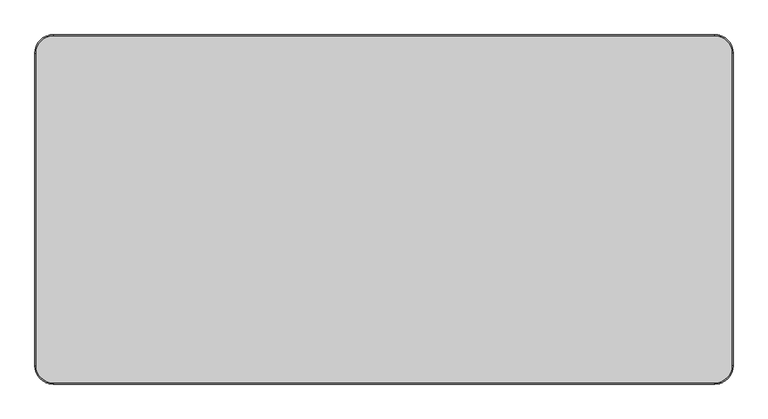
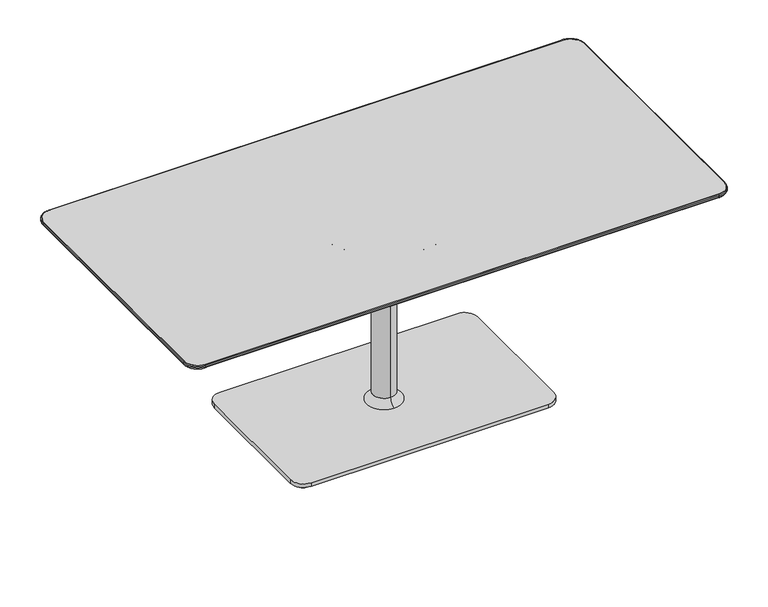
"""IFC4 building model written with IfcOpenShell, lengths in millimetres: furniture geometry, Coalesse_AM_Table_Occasional_Lagunitas_Work : 28.5H x 36D x 72W."""

from ifc_helpers import new_model, si_unit, point, frame, frame_2d, origin, origin_with_axes, place, context, project, spatial, polyline, circle_curve, ellipse_curve, trimmed, segment, composite_curve, outline, extrude, source, transform, mapped, element, save
from ifc_brep_helpers import plane_surface, cylinder_surface, revolved_surface, spline_surface, advanced_brep


def furniture_a1049126(model_context):
    return source(origin(), model_context, "Body", "SolidModel", [
        advanced_brep(
        [(911.6570059, 409.7063839, 711.8724172), (867.2070059, 454.1563839, 711.8724172), (-866.5969941, 454.1563839, 711.8724172), (-911.0469941, 409.7063839, 711.8724172), (-911.0469941, -409.7063839, 711.8724172), (-866.5969941, -454.1563839, 711.8724172), (867.2070059, -454.1563839, 711.8724172), (911.6570059, -409.7063839, 711.8724172), (843.8389826, 386.3390054, 693.8099277), (843.8389826, -386.3390054, 693.8099277), (-843.2289709, -386.3390054, 693.8099277), (-843.2289709, 386.3390054, 693.8099277)],
        [
            (0, 1, circle_curve(frame((867.2070059, 409.7063839, 711.8724172), z_axis=(0.0, 0.0, 1.0), x_axis=(1.0, 0.0, 0.0)), 44.45)),
            (1, 2),
            (2, 3, circle_curve(frame((-866.5969941, 409.7063839, 711.8724172), z_axis=(0.0, 0.0, 1.0), x_axis=(1.0, 0.0, 0.0)), 44.45)),
            (3, 4),
            (4, 5, circle_curve(frame((-866.5969941, -409.7063839, 711.8724172), z_axis=(0.0, 0.0, 1.0), x_axis=(1.0, 0.0, 0.0)), 44.45)),
            (5, 6),
            (6, 7, circle_curve(frame((867.2070059, -409.7063839, 711.8724172), z_axis=(0.0, 0.0, 1.0), x_axis=(1.0, 0.0, 0.0)), 44.45)),
            (7, 0),
            (8, 9),
            (9, 10),
            (10, 11),
            (11, 8),
            (0, 8),
            (8, 1),
            (11, 2),
            (11, 3),
            (10, 4),
            (10, 5),
            (9, 6),
            (9, 7),
        ],
        [
            plane_surface(frame((0.3050059, 0.0, 711.8724172), z_axis=(0.0, 0.0, 1.0), x_axis=(-1.0, 0.0, 0.0))),
            plane_surface(frame((0.3050059, 0.0, 693.8099277), z_axis=(0.0, 0.0, -1.0), x_axis=(-1.0, 0.0, 0.0))),
            spline_surface(2, 1, [[(843.8389826, 386.3390054, 693.8099277), (911.6570059, 409.7063839, 711.8724172)], [(843.8389826, 386.3390054, 693.8099277), (911.6570058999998, 454.1563838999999, 711.8724172)], [(843.8389826, 386.3390054, 693.8099277), (867.2070059, 454.1563839, 711.8724172)]], [3, 3], [2, 2], [0.0, 1.0], [0.0, 1.0], weights=[[1.0, 1.0], [0.707106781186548, 0.707106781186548], [1.0, 1.0]]),
            plane_surface(frame((0.3050059, 386.3390054, 693.8099277), z_axis=(0.0, 0.2573680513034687, -0.966313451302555), x_axis=(-1.0, 0.0, 0.0))),
            spline_surface(2, 1, [[(-843.2289709, 386.3390054, 693.8099277), (-866.5969941, 454.1563839, 711.8724172)], [(-843.2289709, 386.3390054, 693.8099277), (-911.0469940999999, 454.1563838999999, 711.8724172)], [(-843.2289709, 386.3390054, 693.8099277), (-911.0469941, 409.7063839, 711.8724172)]], [3, 3], [2, 2], [0.0, 1.0], [0.0, 1.0], weights=[[1.0, 1.0], [0.707106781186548, 0.707106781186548], [1.0, 1.0]]),
            plane_surface(frame((-843.2289709, 0.0, 693.8099277), z_axis=(-0.25736576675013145, 0.0, -0.9663140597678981), x_axis=(0.0, -1.0, 0.0))),
            spline_surface(2, 1, [[(-843.2289709, -386.3390054, 693.8099277), (-911.0469941, -409.7063839, 711.8724172)], [(-843.2289709, -386.3390054, 693.8099277), (-911.0469941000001, -454.15638390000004, 711.8724172)], [(-843.2289709, -386.3390054, 693.8099277), (-866.5969941, -454.1563839, 711.8724172)]], [3, 3], [2, 2], [0.0, 1.0], [0.0, 1.0], weights=[[1.0, 1.0], [0.7071067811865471, 0.7071067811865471], [1.0, 1.0]]),
            plane_surface(frame((0.3050059, -386.3390054, 693.8099277), z_axis=(0.0, -0.25736805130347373, -0.9663134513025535), x_axis=(1.0, 0.0, 0.0))),
            spline_surface(2, 1, [[(843.8389826, -386.3390054, 693.8099277), (867.2070059, -454.1563839, 711.8724172)], [(843.8389826, -386.3390054, 693.8099277), (911.6570059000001, -454.15638390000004, 711.8724172)], [(843.8389826, -386.3390054, 693.8099277), (911.6570059, -409.7063839, 711.8724172)]], [3, 3], [2, 2], [0.0, 1.0], [0.0, 1.0], weights=[[1.0, 1.0], [0.707106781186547, 0.707106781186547], [1.0, 1.0]]),
            plane_surface(frame((843.8389826, 0.0, 693.8099277), z_axis=(0.2573657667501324, 0.0, -0.9663140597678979), x_axis=(0.0, 1.0, 0.0))),
        ],
        [
            (0, [[1, 2, 3, 4, 5, 6, 7, 8]]),
            (1, [[9, 10, 11, 12]]),
            (2, [[-1, 13, 14]]),
            (3, [[-12, 15, -2, -14]]),
            (4, [[-3, -15, 16]]),
            (5, [[-11, 17, -4, -16]]),
            (6, [[-5, -17, 18]]),
            (7, [[-10, 19, -6, -18]]),
            (8, [[-7, -19, 20]]),
            (9, [[-9, -13, -8, -20]]),
        ],
    ),
        extrude(outline(composite_curve([segment(trimmed(circle_curve(frame_2d((867.2070059, 409.7063839)), 44.45), [point((867.2070059, 454.1563839))], [point((911.6570059, 409.7063839))], False, "CARTESIAN"), True, "CONTINUOUS"), segment(polyline([(911.6570059, 409.7063839), (911.6570059, -409.7063839)]), True, "CONTINUOUS"), segment(trimmed(circle_curve(frame_2d((867.2070059, -409.7063839)), 44.45), [point((911.6570059, -409.7063839))], [point((867.2070059, -454.1563839))], False, "CARTESIAN"), True, "CONTINUOUS"), segment(polyline([(867.2070059, -454.1563839), (-866.5969941, -454.1563839)]), True, "CONTINUOUS"), segment(trimmed(circle_curve(frame_2d((-866.5969941, -409.7063839)), 44.45), [point((-866.5969941, -454.1563839))], [point((-911.0469941, -409.7063839))], False, "CARTESIAN"), True, "CONTINUOUS"), segment(polyline([(-911.0469941, -409.7063839), (-911.0469941, 409.7063839)]), True, "CONTINUOUS"), segment(trimmed(circle_curve(frame_2d((-866.5969941, 409.7063839)), 44.45), [point((-911.0469941, 409.7063839))], [point((-866.5969941, 454.1563839))], False, "CARTESIAN"), True, "CONTINUOUS"), segment(polyline([(-866.5969941, 454.1563839), (867.2070059, 454.1563839)]), True, "CONTINUOUS")], self_intersect=False)), frame((0.0, 0.0, 711.8724172), z_axis=(0.0, 0.0, 1.0), x_axis=(1.0, 0.0, 0.0)), (0.0, 0.0, 1.0), 12.0275828),
        extrude(outline(composite_curve([segment(trimmed(circle_curve(frame_2d((-404.2943146, 226.8029495)), 25.4), [point((-429.6943146, 226.8029495))], [point((-378.8943146, 226.8029495))], False, "CARTESIAN"), True, "CONTINUOUS"), segment(trimmed(circle_curve(frame_2d((-404.2943146, 226.8029495)), 25.4), [point((-378.8943146, 226.8029495))], [point((-429.6943146, 226.8029495))], False, "CARTESIAN"), True, "CONTINUOUS")], self_intersect=False)), origin_with_axes(), (0.0, 0.0, 1.0), 10.6571495),
        extrude(outline(composite_curve([segment(trimmed(circle_curve(frame_2d((404.9043263, 226.8029495)), 25.4), [point((379.5043263, 226.8029495))], [point((430.3043263, 226.8029495))], False, "CARTESIAN"), True, "CONTINUOUS"), segment(trimmed(circle_curve(frame_2d((404.9043263, 226.8029495)), 25.4), [point((430.3043263, 226.8029495))], [point((379.5043263, 226.8029495))], False, "CARTESIAN"), True, "CONTINUOUS")], self_intersect=False)), origin_with_axes(), (0.0, 0.0, 1.0), 10.6571495),
        extrude(outline(composite_curve([segment(trimmed(circle_curve(frame_2d((404.9043263, -226.8029495)), 25.4), [point((379.5043263, -226.8029495))], [point((430.3043263, -226.8029495))], False, "CARTESIAN"), True, "CONTINUOUS"), segment(trimmed(circle_curve(frame_2d((404.9043263, -226.8029495)), 25.4), [point((430.3043263, -226.8029495))], [point((379.5043263, -226.8029495))], False, "CARTESIAN"), True, "CONTINUOUS")], self_intersect=False)), origin_with_axes(), (0.0, 0.0, 1.0), 10.6571495),
        extrude(outline(composite_curve([segment(trimmed(circle_curve(frame_2d((-404.2943146, -226.8029495)), 25.4), [point((-429.6943146, -226.8029495))], [point((-378.8943146, -226.8029495))], False, "CARTESIAN"), True, "CONTINUOUS"), segment(trimmed(circle_curve(frame_2d((-404.2943146, -226.8029495)), 25.4), [point((-378.8943146, -226.8029495))], [point((-429.6943146, -226.8029495))], False, "CARTESIAN"), True, "CONTINUOUS")], self_intersect=False)), origin_with_axes(), (0.0, 0.0, 1.0), 10.6571495),
        extrude(outline(composite_curve([segment(trimmed(circle_curve(frame_2d((400.3550059, 222.2481833)), 44.45), [point((400.3550059, 266.6981833))], [point((444.8050059, 222.2481833))], False, "CARTESIAN"), True, "CONTINUOUS"), segment(polyline([(444.8050059, 222.2481833), (444.8050059, -222.2481833)]), True, "CONTINUOUS"), segment(trimmed(circle_curve(frame_2d((400.3550059, -222.2481833)), 44.45), [point((444.8050059, -222.2481833))], [point((400.3550059, -266.6981833))], False, "CARTESIAN"), True, "CONTINUOUS"), segment(polyline([(400.3550059, -266.6981833), (-399.7449941, -266.6981833)]), True, "CONTINUOUS"), segment(trimmed(circle_curve(frame_2d((-399.7449941, -222.2481833)), 44.45), [point((-399.7449941, -266.6981833))], [point((-444.1949941, -222.2481833))], False, "CARTESIAN"), True, "CONTINUOUS"), segment(polyline([(-444.1949941, -222.2481833), (-444.1949941, 222.2481833)]), True, "CONTINUOUS"), segment(trimmed(circle_curve(frame_2d((-399.7449941, 222.2481833)), 44.45), [point((-444.1949941, 222.2481833))], [point((-399.7449941, 266.6981833))], False, "CARTESIAN"), True, "CONTINUOUS"), segment(polyline([(-399.7449941, 266.6981833), (400.3550059, 266.6981833)]), True, "CONTINUOUS")], self_intersect=False)), frame((0.0, 0.0, 10.6571495), z_axis=(0.0, 0.0, 1.0), x_axis=(1.0, 0.0, 0.0)), (0.0, 0.0, 1.0), 12.7000004),
        advanced_brep(
        [(-914.0930954, 409.7063839, 715.6656816), (-866.5969941, 457.2024852, 715.6656816), (-866.5969941, 454.1563839, 711.8724172), (-911.0469941, 409.7063839, 711.8724172), (-914.0930954, 409.7063839, 720.8538988), (-866.5969941, 457.2024852, 720.8538988), (-911.0469941, 409.7063839, 723.9), (-866.5969941, 454.1563839, 723.9), (-911.0469941, -409.7063839, 711.8724172), (-914.0930954, -409.7063839, 715.6656816), (-914.0930954, -409.7063839, 720.8538988), (-911.0469941, -409.7063839, 723.9), (-866.5969941, -457.2024852, 715.6656816), (-866.5969941, -454.1563839, 711.8724172), (-866.5969941, -457.2024852, 720.8538988), (-866.5969941, -454.1563839, 723.9), (867.2070059, -454.1563839, 711.8724172), (867.2070059, -457.2024852, 715.6656816), (867.2070059, -457.2024852, 720.8538988), (867.2070059, -454.1563839, 723.9), (914.7031071, -409.7063839, 715.6656816), (911.6570059, -409.7063839, 711.8724172), (914.7031071, -409.7063839, 720.8538988), (911.6570059, -409.7063839, 723.9), (911.6570059, 409.7063839, 711.8724172), (914.7031071, 409.7063839, 715.6656816), (914.7031071, 409.7063839, 720.8538988), (911.6570059, 409.7063839, 723.9), (867.2070059, 457.2024852, 715.6656816), (867.2070059, 454.1563839, 711.8724172), (867.2070059, 457.2024852, 720.8538988), (867.2070059, 454.1563839, 723.9)],
        [
            (0, 1, circle_curve(frame((-866.5969941, 409.7063839, 715.6656816), z_axis=(0.0, 0.0, -1.0), x_axis=(0.0, 1.0, 0.0)), 47.4961012)),
            (1, 2, circle_curve(frame((-866.5969941, 453.3175869, 715.6656816), z_axis=(-1.0, 0.0, 0.0), x_axis=(0.0, -1.0, 0.0)), 3.8848983)),
            (2, 3, circle_curve(frame((-866.5969941, 409.7063839, 711.8724172), z_axis=(0.0, 0.0, 1.0), x_axis=(0.0, 1.0, 0.0)), 44.45)),
            (3, 0, circle_curve(frame((-910.2081971, 409.7063839, 715.6656816), z_axis=(0.0, 1.0, 0.0), x_axis=(1.0, 0.0, 0.0)), 3.8848983)),
            (4, 5, circle_curve(frame((-866.5969941, 409.7063839, 720.8538988), z_axis=(0.0, 0.0, -1.0), x_axis=(0.0, 1.0, 0.0)), 47.4961012)),
            (5, 1),
            (0, 4),
            (6, 7, circle_curve(frame((-866.5969941, 409.7063839, 723.9), z_axis=(0.0, 0.0, -1.0), x_axis=(0.0, 1.0, 0.0)), 44.45)),
            (7, 5, circle_curve(frame((-866.5969941, 454.1563839, 720.8538988), z_axis=(-1.0, 0.0, 0.0), x_axis=(0.0, -1.0, 0.0)), 3.0461012)),
            (4, 6, circle_curve(frame((-911.0469941, 409.7063839, 720.8538988), z_axis=(0.0, 1.0, 0.0), x_axis=(1.0, 0.0, 0.0)), 3.0461012)),
            (2, 7),
            (6, 3),
            (3, 8),
            (8, 9, circle_curve(frame((-910.2081971, -409.7063839, 715.6656816), z_axis=(0.0, 1.0, 0.0), x_axis=(1.0, 0.0, 0.0)), 3.8848983)),
            (9, 0),
            (9, 10),
            (10, 4),
            (10, 11, circle_curve(frame((-911.0469941, -409.7063839, 720.8538988), z_axis=(0.0, 1.0, 0.0), x_axis=(1.0, 0.0, 0.0)), 3.0461012)),
            (11, 6),
            (11, 8),
            (12, 9, circle_curve(frame((-866.5969941, -409.7063839, 715.6656816), z_axis=(0.0, 0.0, -1.0), x_axis=(-1.0, 0.0, 0.0)), 47.4961012)),
            (8, 13, circle_curve(frame((-866.5969941, -409.7063839, 711.8724172), z_axis=(0.0, 0.0, 1.0), x_axis=(-1.0, 0.0, 0.0)), 44.45)),
            (13, 12, circle_curve(frame((-866.5969941, -453.3175869, 715.6656816), z_axis=(-1.0, 0.0, 0.0), x_axis=(0.0, 1.0, 0.0)), 3.8848983)),
            (14, 10, circle_curve(frame((-866.5969941, -409.7063839, 720.8538988), z_axis=(0.0, 0.0, -1.0), x_axis=(-1.0, 0.0, 0.0)), 47.4961012)),
            (12, 14),
            (15, 11, circle_curve(frame((-866.5969941, -409.7063839, 723.9), z_axis=(0.0, 0.0, -1.0), x_axis=(-1.0, 0.0, 0.0)), 44.45)),
            (14, 15, circle_curve(frame((-866.5969941, -454.1563839, 720.8538988), z_axis=(-1.0, 0.0, 0.0), x_axis=(0.0, 1.0, 0.0)), 3.0461012)),
            (15, 13),
            (13, 16),
            (16, 17, circle_curve(frame((867.2070059, -453.3175869, 715.6656816), z_axis=(-1.0, 0.0, 0.0), x_axis=(0.0, 1.0, 0.0)), 3.8848983)),
            (17, 12),
            (17, 18),
            (18, 14),
            (18, 19, circle_curve(frame((867.2070059, -454.1563839, 720.8538988), z_axis=(-1.0, 0.0, 0.0), x_axis=(0.0, 1.0, 0.0)), 3.0461012)),
            (19, 15),
            (19, 16),
            (20, 17, circle_curve(frame((867.2070059, -409.7063839, 715.6656816), z_axis=(0.0, 0.0, -1.0), x_axis=(0.0, -1.0, 0.0)), 47.4961012)),
            (16, 21, circle_curve(frame((867.2070059, -409.7063839, 711.8724172), z_axis=(0.0, 0.0, 1.0), x_axis=(0.0, -1.0, 0.0)), 44.45)),
            (21, 20, circle_curve(frame((910.8182088, -409.7063839, 715.6656816), z_axis=(0.0, -1.0, 0.0), x_axis=(-1.0, 0.0, 0.0)), 3.8848983)),
            (22, 18, circle_curve(frame((867.2070059, -409.7063839, 720.8538988), z_axis=(0.0, 0.0, -1.0), x_axis=(0.0, -1.0, 0.0)), 47.4961012)),
            (20, 22),
            (23, 19, circle_curve(frame((867.2070059, -409.7063839, 723.9), z_axis=(0.0, 0.0, -1.0), x_axis=(0.0, -1.0, 0.0)), 44.45)),
            (22, 23, circle_curve(frame((911.6570059, -409.7063839, 720.8538988), z_axis=(0.0, -1.0, 0.0), x_axis=(-1.0, 0.0, 0.0)), 3.0461012)),
            (23, 21),
            (21, 24),
            (24, 25, circle_curve(frame((910.8182088, 409.7063839, 715.6656816), z_axis=(0.0, -1.0, 0.0), x_axis=(-1.0, 0.0, 0.0)), 3.8848983)),
            (25, 20),
            (25, 26),
            (26, 22),
            (26, 27, circle_curve(frame((911.6570059, 409.7063839, 720.8538988), z_axis=(0.0, -1.0, 0.0), x_axis=(-1.0, 0.0, 0.0)), 3.0461012)),
            (27, 23),
            (27, 24),
            (28, 25, circle_curve(frame((867.2070059, 409.7063839, 715.6656816), z_axis=(0.0, 0.0, -1.0), x_axis=(1.0, 0.0, 0.0)), 47.4961012)),
            (24, 29, circle_curve(frame((867.2070059, 409.7063839, 711.8724172), z_axis=(0.0, 0.0, 1.0), x_axis=(1.0, 0.0, 0.0)), 44.45)),
            (29, 28, circle_curve(frame((867.2070059, 453.3175869, 715.6656816), z_axis=(1.0, 0.0, 0.0), x_axis=(0.0, -1.0, 0.0)), 3.8848983)),
            (30, 26, circle_curve(frame((867.2070059, 409.7063839, 720.8538988), z_axis=(0.0, 0.0, -1.0), x_axis=(1.0, 0.0, 0.0)), 47.4961012)),
            (28, 30),
            (31, 27, circle_curve(frame((867.2070059, 409.7063839, 723.9), z_axis=(0.0, 0.0, -1.0), x_axis=(1.0, 0.0, 0.0)), 44.45)),
            (30, 31, circle_curve(frame((867.2070059, 454.1563839, 720.8538988), z_axis=(1.0, 0.0, 0.0), x_axis=(0.0, -1.0, 0.0)), 3.0461012)),
            (31, 29),
            (29, 2),
            (1, 28),
            (5, 30),
            (7, 31),
        ],
        [
            revolved_surface(trimmed(ellipse_curve(frame((-866.5969941, 453.3175869, 715.6656816), z_axis=(1.0, 0.0, 0.0), x_axis=(0.0, -1.0, 0.0)), 3.8848983, 3.8848983), [point((-866.5969941, 454.1563839, 711.8724172))], [point((-866.5969941, 457.2024852, 715.6656816))], True, "CARTESIAN"), (-866.5969941, 409.7063839, 0.0), (0.0, 0.0, 1.0)),
            cylinder_surface(frame((-866.5969941, 409.7063839, 0.0), z_axis=(0.0, 0.0, 1.0), x_axis=(0.0, 1.0, 0.0)), 47.4961012),
            revolved_surface(trimmed(ellipse_curve(frame((-866.5969941, 454.1563839, 720.8538988), z_axis=(1.0, 0.0, 0.0), x_axis=(0.0, -1.0, 0.0)), 3.0461012, 3.0461012), [point((-866.5969941, 457.2024852, 720.8538988))], [point((-866.5969941, 454.1563839, 723.9))], True, "CARTESIAN"), (-866.5969941, 409.7063839, 0.0), (0.0, 0.0, 1.0)),
            revolved_surface(polyline([(-866.5969941, 454.1563839, 723.9), (-866.5969941, 454.1563839, 711.8724172)]), (-866.5969941, 409.7063839, 0.0), (0.0, 0.0, 1.0)),
            cylinder_surface(frame((-910.2081971, 409.7063839, 715.6656816), z_axis=(0.0, 1.0, 0.0), x_axis=(1.0, 0.0, 0.0)), 3.8848983),
            plane_surface(frame((-914.0930954, 409.7063839, 715.6656816), z_axis=(-1.0, 0.0, 0.0), x_axis=(0.0, -1.0, 0.0))),
            cylinder_surface(frame((-911.0469941, 409.7063839, 720.8538988), z_axis=(0.0, 1.0, 0.0), x_axis=(1.0, 0.0, 0.0)), 3.0461012),
            plane_surface(frame((-911.0469941, 409.7063839, 723.9), z_axis=(1.0, 0.0, 0.0), x_axis=(0.0, -1.0, 0.0))),
            revolved_surface(trimmed(ellipse_curve(frame((-910.2081971, -409.7063839, 715.6656816), z_axis=(0.0, 1.0, 0.0), x_axis=(1.0, 0.0, 0.0)), 3.8848983, 3.8848983), [point((-911.0469941, -409.7063839, 711.8724172))], [point((-914.0930954, -409.7063839, 715.6656816))], True, "CARTESIAN"), (-866.5969941, -409.7063839, 0.0), (0.0, 0.0, 1.0)),
            cylinder_surface(frame((-866.5969941, -409.7063839, 0.0), z_axis=(0.0, 0.0, 1.0), x_axis=(-1.0, 0.0, 0.0)), 47.4961012),
            revolved_surface(trimmed(ellipse_curve(frame((-911.0469941, -409.7063839, 720.8538988), z_axis=(0.0, 1.0, 0.0), x_axis=(1.0, 0.0, 0.0)), 3.0461012, 3.0461012), [point((-914.0930954, -409.7063839, 720.8538988))], [point((-911.0469941, -409.7063839, 723.9))], True, "CARTESIAN"), (-866.5969941, -409.7063839, 0.0), (0.0, 0.0, 1.0)),
            revolved_surface(polyline([(-911.0469941, -409.7063839, 723.9), (-911.0469941, -409.7063839, 711.8724172)]), (-866.5969941, -409.7063839, 0.0), (0.0, 0.0, 1.0)),
            cylinder_surface(frame((-866.5969941, -453.3175869, 715.6656816), z_axis=(-1.0, 0.0, 0.0), x_axis=(0.0, 1.0, 0.0)), 3.8848983),
            plane_surface(frame((-866.5969941, -457.2024852, 715.6656816), z_axis=(0.0, -1.0, 0.0), x_axis=(1.0, 0.0, 0.0))),
            cylinder_surface(frame((-866.5969941, -454.1563839, 720.8538988), z_axis=(-1.0, 0.0, 0.0), x_axis=(0.0, 1.0, 0.0)), 3.0461012),
            plane_surface(frame((-866.5969941, -454.1563839, 723.9), z_axis=(0.0, 1.0, 0.0), x_axis=(1.0, 0.0, 0.0))),
            revolved_surface(trimmed(ellipse_curve(frame((867.2070059, -453.3175869, 715.6656816), z_axis=(-1.0, 0.0, 0.0), x_axis=(0.0, 1.0, 0.0)), 3.8848983, 3.8848983), [point((867.2070059, -454.1563839, 711.8724172))], [point((867.2070059, -457.2024852, 715.6656816))], True, "CARTESIAN"), (867.2070059, -409.7063839, 0.0), (0.0, 0.0, 1.0)),
            cylinder_surface(frame((867.2070059, -409.7063839, 0.0), z_axis=(0.0, 0.0, 1.0), x_axis=(0.0, -1.0, 0.0)), 47.4961012),
            revolved_surface(trimmed(ellipse_curve(frame((867.2070059, -454.1563839, 720.8538988), z_axis=(-1.0, 0.0, 0.0), x_axis=(0.0, 1.0, 0.0)), 3.0461012, 3.0461012), [point((867.2070059, -457.2024852, 720.8538988))], [point((867.2070059, -454.1563839, 723.9))], True, "CARTESIAN"), (867.2070059, -409.7063839, 0.0), (0.0, 0.0, 1.0)),
            revolved_surface(polyline([(867.2070059, -454.1563839, 723.9), (867.2070059, -454.1563839, 711.8724172)]), (867.2070059, -409.7063839, 0.0), (0.0, 0.0, 1.0)),
            cylinder_surface(frame((910.8182088, -409.7063839, 715.6656816), z_axis=(0.0, -1.0, 0.0), x_axis=(-1.0, 0.0, 0.0)), 3.8848983),
            plane_surface(frame((914.7031071, -409.7063839, 715.6656816), z_axis=(1.0, 0.0, 0.0), x_axis=(0.0, 1.0, 0.0))),
            cylinder_surface(frame((911.6570059, -409.7063839, 720.8538988), z_axis=(0.0, -1.0, 0.0), x_axis=(-1.0, 0.0, 0.0)), 3.0461012),
            plane_surface(frame((911.6570059, -409.7063839, 723.9), z_axis=(-1.0, 0.0, 0.0), x_axis=(0.0, 1.0, 0.0))),
            revolved_surface(trimmed(ellipse_curve(frame((910.8182088, 409.7063839, 715.6656816), z_axis=(0.0, -1.0, 0.0), x_axis=(-1.0, 0.0, 0.0)), 3.8848983, 3.8848983), [point((911.6570059, 409.7063839, 711.8724172))], [point((914.7031071, 409.7063839, 715.6656816))], True, "CARTESIAN"), (867.2070059, 409.7063839, 0.0), (0.0, 0.0, 1.0)),
            cylinder_surface(frame((867.2070059, 409.7063839, 0.0), z_axis=(0.0, 0.0, 1.0), x_axis=(1.0, 0.0, 0.0)), 47.4961012),
            revolved_surface(trimmed(ellipse_curve(frame((911.6570059, 409.7063839, 720.8538988), z_axis=(0.0, -1.0, 0.0), x_axis=(-1.0, 0.0, 0.0)), 3.0461012, 3.0461012), [point((914.7031071, 409.7063839, 720.8538988))], [point((911.6570059, 409.7063839, 723.9))], True, "CARTESIAN"), (867.2070059, 409.7063839, 0.0), (0.0, 0.0, 1.0)),
            revolved_surface(polyline([(911.6570059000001, 409.7063839, 723.9), (911.6570059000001, 409.7063839, 711.8724172)]), (867.2070059, 409.7063839, 0.0), (0.0, 0.0, 1.0)),
            cylinder_surface(frame((867.2070059, 453.3175869, 715.6656816), z_axis=(1.0, 0.0, 0.0), x_axis=(0.0, -1.0, 0.0)), 3.8848983),
            plane_surface(frame((867.2070059, 457.2024852, 715.6656816), z_axis=(0.0, 1.0, 0.0), x_axis=(-1.0, 0.0, 0.0))),
            cylinder_surface(frame((867.2070059, 454.1563839, 720.8538988), z_axis=(1.0, 0.0, 0.0), x_axis=(0.0, -1.0, 0.0)), 3.0461012),
            plane_surface(frame((867.2070059, 454.1563839, 723.9), z_axis=(0.0, -1.0, 0.0), x_axis=(-1.0, 0.0, 0.0))),
        ],
        [
            (0, [[1, 2, 3, 4]]),
            (1, [[5, 6, -1, 7]]),
            (2, [[8, 9, -5, 10]]),
            (3, [[-3, 11, -8, 12]]),
            (4, [[-4, 13, 14, 15]]),
            (5, [[-7, -15, 16, 17]]),
            (6, [[-10, -17, 18, 19]]),
            (7, [[-12, -19, 20, -13]]),
            (8, [[21, -14, 22, 23]]),
            (9, [[24, -16, -21, 25]]),
            (10, [[26, -18, -24, 27]]),
            (11, [[-22, -20, -26, 28]]),
            (12, [[-23, 29, 30, 31]]),
            (13, [[-25, -31, 32, 33]]),
            (14, [[-27, -33, 34, 35]]),
            (15, [[-28, -35, 36, -29]]),
            (16, [[37, -30, 38, 39]]),
            (17, [[40, -32, -37, 41]]),
            (18, [[42, -34, -40, 43]]),
            (19, [[-38, -36, -42, 44]]),
            (20, [[-39, 45, 46, 47]]),
            (21, [[-41, -47, 48, 49]]),
            (22, [[-43, -49, 50, 51]]),
            (23, [[-44, -51, 52, -45]]),
            (24, [[53, -46, 54, 55]]),
            (25, [[56, -48, -53, 57]]),
            (26, [[58, -50, -56, 59]]),
            (27, [[-54, -52, -58, 60]]),
            (28, [[-55, 61, -2, 62]]),
            (29, [[-57, -62, -6, 63]]),
            (30, [[-59, -63, -9, 64]]),
            (31, [[-60, -64, -11, -61]]),
        ],
    ),
        advanced_brep(
        [(0.3050059, -37.9287895, 564.3567695), (0.3050059, 37.9287895, 564.3567695), (0.3050059, 37.9287895, 50.0429711), (0.3050059, -37.9287895, 50.0429711), (0.3050059, -59.3395816, 602.3698908), (0.3050059, 59.3395816, 602.3698908), (0.3050059, -197.9068019, 686.3534968), (0.3050059, 197.9068019, 686.3534968), (0.3050059, -212.4265152, 690.4101307), (0.3050059, 212.4265152, 690.4101307), (0.3050059, -226.4292749, 690.4101307), (0.3050059, 226.4292749, 690.4101307), (0.3050059, -228.4774392, 693.8099277), (0.3050059, 228.4774392, 693.8099277), (0.3050059, 0.0, 693.8099277), (0.3050059, -60.2304855, 23.3571499), (0.3050059, 60.2304855, 23.3571499), (0.3050059, 0.0, 23.3571499)],
        [
            (0, 1, circle_curve(frame((0.3050059, 0.0, 564.3567695), z_axis=(0.0, 0.0, -1.0), x_axis=(0.0, 1.0, 0.0)), 37.9287895)),
            (1, 2),
            (2, 3, circle_curve(frame((0.3050059, 0.0, 50.0429711), z_axis=(0.0, 0.0, 1.0), x_axis=(0.0, 1.0, 0.0)), 37.9287895)),
            (3, 0),
            (1, 0, circle_curve(frame((0.3050059, 0.0, 564.3567695), z_axis=(0.0, 0.0, -1.0), x_axis=(0.0, 1.0, 0.0)), 37.9287895)),
            (3, 2, circle_curve(frame((0.3050059, 0.0, 50.0429711), z_axis=(0.0, 0.0, 1.0), x_axis=(0.0, 1.0, 0.0)), 37.9287895)),
            (4, 5, circle_curve(frame((0.3050059, 0.0, 602.3698908), z_axis=(0.0, 0.0, -1.0), x_axis=(0.0, 1.0, 0.0)), 59.3395816)),
            (5, 1, circle_curve(frame((0.3050059, 82.3787895, 564.3567695), z_axis=(1.0, 0.0, 0.0), x_axis=(0.0, 1.0, 0.0)), 44.45)),
            (0, 4, circle_curve(frame((0.3050059, -82.3787895, 564.3567695), z_axis=(1.0, 0.0, 0.0), x_axis=(0.0, -1.0, 0.0)), 44.45)),
            (5, 4, circle_curve(frame((0.3050059, 0.0, 602.3698908), z_axis=(0.0, 0.0, -1.0), x_axis=(0.0, 1.0, 0.0)), 59.3395816)),
            (6, 7, circle_curve(frame((0.3050059, 0.0, 686.3534968), z_axis=(0.0, 0.0, -1.0), x_axis=(0.0, 1.0, 0.0)), 197.9068019)),
            (7, 5),
            (4, 6),
            (7, 6, circle_curve(frame((0.3050059, 0.0, 686.3534968), z_axis=(0.0, 0.0, -1.0), x_axis=(0.0, 1.0, 0.0)), 197.9068019)),
            (8, 9, circle_curve(frame((0.3050059, 0.0, 690.4101307), z_axis=(0.0, 0.0, -1.0), x_axis=(0.0, 1.0, 0.0)), 212.4265152)),
            (9, 7, circle_curve(frame((0.3050059, 212.4265152, 662.3969605), z_axis=(1.0, 0.0, 0.0), x_axis=(0.0, 1.0, 0.0)), 28.0131702)),
            (6, 8, circle_curve(frame((0.3050059, -212.4265152, 662.3969605), z_axis=(1.0, 0.0, 0.0), x_axis=(0.0, -1.0, 0.0)), 28.0131702)),
            (9, 8, circle_curve(frame((0.3050059, 0.0, 690.4101307), z_axis=(0.0, 0.0, -1.0), x_axis=(0.0, 1.0, 0.0)), 212.4265152)),
            (10, 11, circle_curve(frame((0.3050059, 0.0, 690.4101307), z_axis=(0.0, 0.0, -1.0), x_axis=(0.0, 1.0, 0.0)), 226.4292749)),
            (11, 9),
            (8, 10),
            (11, 10, circle_curve(frame((0.3050059, 0.0, 690.4101307), z_axis=(0.0, 0.0, -1.0), x_axis=(0.0, 1.0, 0.0)), 226.4292749)),
            (12, 13, circle_curve(frame((0.3050059, 0.0, 693.8099277), z_axis=(0.0, 0.0, -1.0), x_axis=(0.0, 1.0, 0.0)), 228.4774392)),
            (13, 11, circle_curve(frame((0.3050059, 226.4292749, 692.7269744), z_axis=(-1.0, 0.0, 0.0), x_axis=(0.0, 1.0, 0.0)), 2.3168437)),
            (10, 12, circle_curve(frame((0.3050059, -226.4292749, 692.7269744), z_axis=(-1.0, 0.0, 0.0), x_axis=(0.0, -1.0, 0.0)), 2.3168437)),
            (13, 12, circle_curve(frame((0.3050059, 0.0, 693.8099277), z_axis=(0.0, 0.0, -1.0), x_axis=(0.0, 1.0, 0.0)), 228.4774392)),
            (14, 13),
            (12, 14),
            (15, 16, circle_curve(frame((0.3050059, 0.0, 23.3571499), z_axis=(0.0, 0.0, -1.0), x_axis=(0.0, 1.0, 0.0)), 60.2304855)),
            (16, 17),
            (17, 15),
            (16, 15, circle_curve(frame((0.3050059, 0.0, 23.3571499), z_axis=(0.0, 0.0, -1.0), x_axis=(0.0, 1.0, 0.0)), 60.2304855)),
            (2, 16, circle_curve(frame((0.3050059, 65.045532, 50.0429711), z_axis=(1.0, 0.0, 0.0), x_axis=(0.0, 1.0, 0.0)), 27.1167425)),
            (15, 3, circle_curve(frame((0.3050059, -65.045532, 50.0429711), z_axis=(1.0, 0.0, 0.0), x_axis=(0.0, -1.0, 0.0)), 27.1167425)),
        ],
        [
            cylinder_surface(frame((0.3050059, 0.0, 801.7745102), z_axis=(0.0, 0.0, 1.0), x_axis=(0.0, 1.0, 0.0)), 37.9287895),
            revolved_surface(trimmed(ellipse_curve(frame((0.3050059, 82.3787895, 564.3567695), z_axis=(-1.0, 0.0, 0.0), x_axis=(0.0, 1.0, 0.0)), 44.45, 44.45), [point((0.3050059, 37.9287895, 564.3567695))], [point((0.3050059, 59.3395816, 602.3698908))], True, "CARTESIAN"), (0.3050059, 0.0, 801.7745102), (0.0, 0.0, 1.0)),
            revolved_surface(polyline([(0.3050059, 59.3395816, 602.3698908), (0.3050059, 197.9068019, 686.3534968)]), (0.3050059, 0.0, 801.7745102), (0.0, 0.0, 1.0)),
            revolved_surface(trimmed(ellipse_curve(frame((0.3050059, 212.4265152, 662.3969605), z_axis=(-1.0, 0.0, 0.0), x_axis=(0.0, 1.0, 0.0)), 28.0131702, 28.0131702), [point((0.3050059, 197.9068019, 686.3534968))], [point((0.3050059, 212.4265152, 690.4101307))], True, "CARTESIAN"), (0.3050059, 0.0, 801.7745102), (0.0, 0.0, 1.0)),
            plane_surface(frame((0.3050059, 0.0, 690.4101307), z_axis=(0.0, 0.0, -1.0), x_axis=(0.0, 1.0, 0.0))),
            revolved_surface(trimmed(ellipse_curve(frame((0.3050059, 226.4292749, 692.7269744), z_axis=(1.0, 0.0, 0.0), x_axis=(0.0, 1.0, 0.0)), 2.3168437, 2.3168437), [point((0.3050059, 226.4292749, 690.4101307))], [point((0.3050059, 228.4774392, 693.8099277))], True, "CARTESIAN"), (0.3050059, 0.0, 801.7745102), (0.0, 0.0, 1.0)),
            plane_surface(frame((0.3050059, 0.0, 693.8099277), z_axis=(0.0, 0.0, 1.0), x_axis=(0.0, 1.0, 0.0))),
            plane_surface(frame((0.3050059, 0.0, 23.3571499), z_axis=(0.0, 0.0, -1.0), x_axis=(0.0, 1.0, 0.0))),
            revolved_surface(trimmed(ellipse_curve(frame((0.3050059, 65.045532, 50.0429711), z_axis=(-1.0, 0.0, 0.0), x_axis=(0.0, 1.0, 0.0)), 27.1167425, 27.1167425), [point((0.3050059, 60.2304855, 23.3571499))], [point((0.3050059, 37.9287895, 50.0429711))], True, "CARTESIAN"), (0.3050059, 0.0, 801.7745102), (0.0, 0.0, 1.0)),
        ],
        [
            (0, [[1, 2, 3, 4]]),
            (0, [[5, -4, 6, -2]]),
            (1, [[7, 8, -1, 9]]),
            (1, [[10, -9, -5, -8]]),
            (2, [[11, 12, -7, 13]]),
            (2, [[14, -13, -10, -12]]),
            (3, [[15, 16, -11, 17]]),
            (3, [[18, -17, -14, -16]]),
            (4, [[19, 20, -15, 21]]),
            (4, [[22, -21, -18, -20]]),
            (5, [[23, 24, -19, 25]]),
            (5, [[26, -25, -22, -24]]),
            (6, [[27, -23, 28]]),
            (6, [[-28, -26, -27]]),
            (7, [[29, 30, 31]]),
            (7, [[32, -31, -30]]),
            (8, [[-3, 33, -29, 34]]),
            (8, [[-6, -34, -32, -33]]),
        ],
    ),
    ])


if __name__ == "__main__":
    model = new_model("IFC4")
    model_context = context("Model", 3, world=origin())
    ifc_project = project(units=[si_unit("LENGTHUNIT", "METRE", prefix="MILLI")], contexts=[model_context])
    site = spatial("IfcSite", under=ifc_project)
    building = spatial("IfcBuilding", under=site)
    placement = place(None, origin())
    furniture_shape = furniture_a1049126(model_context)
    element("IfcFurniture", 1, ObjectType="Coalesse_AM_Table_Occasional_Lagunitas_Work : 28.5H x 36D x 72W", at=placement, inside=building, context=model_context, shape_type="MappedRepresentation", body=[
        mapped(furniture_shape, transform((0.0, 0.0, 0.0), x_axis=(1.0, 0.0, 0.0), y_axis=(0.0, 1.0, 0.0), z_axis=(0.0, 0.0, 1.0))),
    ])
    save(model, "model.ifc")
